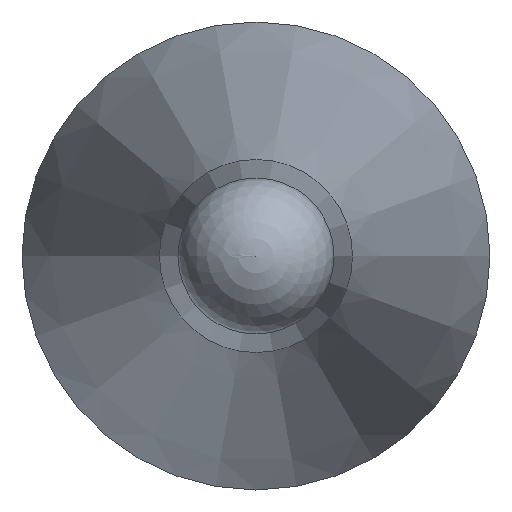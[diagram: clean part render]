
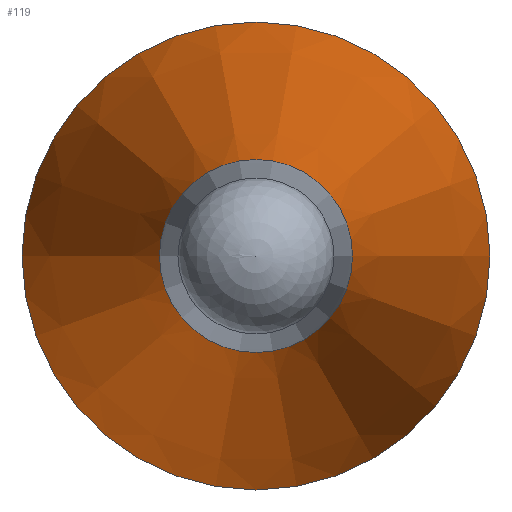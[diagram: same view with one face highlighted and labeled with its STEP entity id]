
A CAD part, left-side view. The second image highlights one B-rep face of the part: STEP entity #119.
In plain terms, the highlighted conical face has half-angle 12 degrees and reference radius 3 mm.
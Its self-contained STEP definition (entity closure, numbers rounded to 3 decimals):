
#97=CONICAL_SURFACE('',#194,3.,12.);
#106=FACE_BOUND('',#134,.T.);
#107=FACE_BOUND('',#135,.T.);
#119=ADVANCED_FACE('',(#106,#107),#97,.T.);
#134=EDGE_LOOP('',(#150));
#135=EDGE_LOOP('',(#151));
#150=ORIENTED_EDGE('',*,*,#172,.T.);
#151=ORIENTED_EDGE('',*,*,#173,.F.);
#164=VERTEX_POINT('',#249);
#165=VERTEX_POINT('',#252);
#172=EDGE_CURVE('',#164,#164,#180,.T.);
#173=EDGE_CURVE('',#165,#165,#181,.T.);
#180=CIRCLE('',#191,1.237);
#181=CIRCLE('',#193,3.);
#191=AXIS2_PLACEMENT_3D('',#248,#215,#216);
#193=AXIS2_PLACEMENT_3D('',#251,#219,#220);
#194=AXIS2_PLACEMENT_3D('',#253,#221,#222);
#215=DIRECTION('',(1.,0.,0.));
#216=DIRECTION('',(0.,1.,0.));
#219=DIRECTION('',(1.,0.,0.));
#220=DIRECTION('',(0.,1.,0.));
#221=DIRECTION('',(1.,0.,0.));
#222=DIRECTION('',(0.,1.,0.));
#248=CARTESIAN_POINT('',(7913.912,6103.288,0.));
#249=CARTESIAN_POINT('',(7913.912,6104.526,0.));
#251=CARTESIAN_POINT('',(7922.204,6103.288,0.));
#252=CARTESIAN_POINT('',(7922.204,6106.288,0.));
#253=CARTESIAN_POINT('',(7922.204,6103.288,0.));
